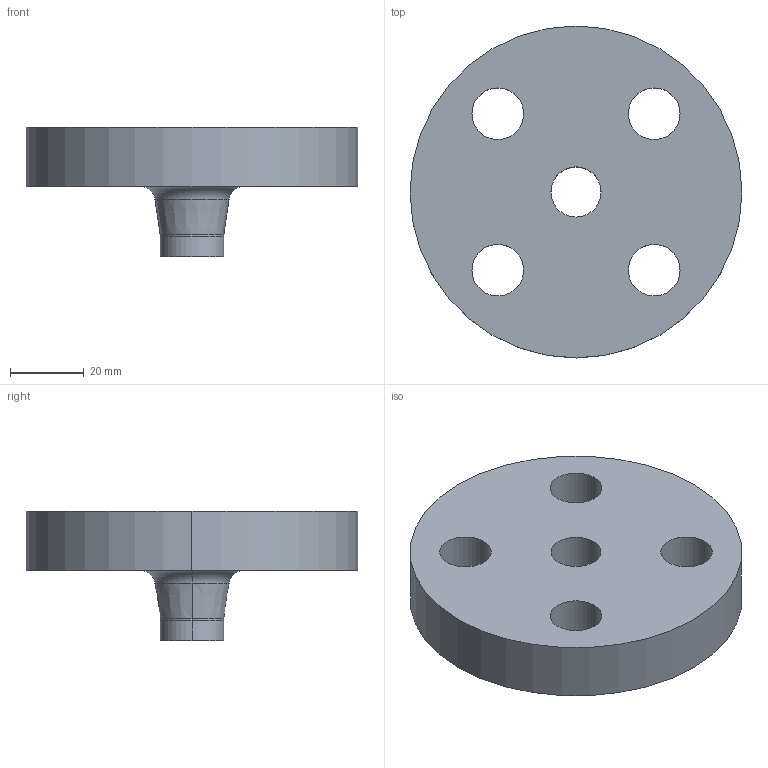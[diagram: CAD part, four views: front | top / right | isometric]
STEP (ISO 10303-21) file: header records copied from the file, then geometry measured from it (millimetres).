
FILE_DESCRIPTION (( 'STEP AP214' ), '1' );
FILE_NAME ('PN40 DN10 Type 11 - Type A Face.STEP', '2018-12-29T05:12:53', ( '' ), ( '' ), 'SwSTEP 2.0', 'SolidWorks 2019', '' );
FILE_SCHEMA (( 'AUTOMOTIVE_DESIGN' ));
Length unit declared in the file: millimetre
Products named in the file (1): PN40 DN10 Type 11 - Type A Face
Bounding box: 90 x 90 x 35 mm (x, y, z)
Volume: 92186.3 mm3; surface area: 20960.4 mm2
Topology: 1 solids, 1 shells, 23 faces, 54 edges, 34 vertices
Faces by surface type: cylinder 14, torus 4, plane 3, cone 2
Entity records: 732 total; most frequent: DIRECTION 140, CARTESIAN_POINT 112, ORIENTED_EDGE 108, AXIS2_PLACEMENT_3D 62, EDGE_CURVE 54, CIRCLE 38, VERTEX_POINT 34, EDGE_LOOP 34
